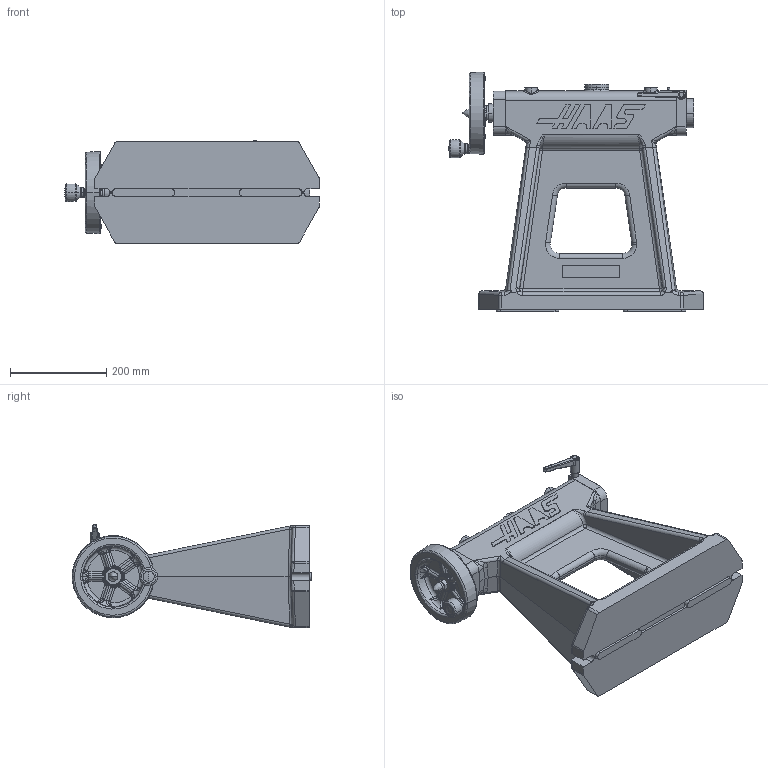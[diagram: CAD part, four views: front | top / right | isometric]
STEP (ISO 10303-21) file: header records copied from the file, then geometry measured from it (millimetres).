
FILE_DESCRIPTION (( 'STEP AP214' ), '1' );
FILE_NAME ('HTS16_STEP_2020-03.STEP', '2020-04-01T17:51:56', ( '' ), ( '' ), 'SwSTEP 2.0', 'SolidWorks 2019', '' );
FILE_SCHEMA (( 'AUTOMOTIVE_DESIGN' ));
Length unit declared in the file: inch
Products named in the file (1): HTS16_STEP_2020-03
Bounding box: 527.92 x 497.27 x 214.24 mm (x, y, z)
Volume: 11383250 mm3; surface area: 793283.8 mm2
Topology: 1 solids, 4 shells, 1237 faces, 3103 edges, 1878 vertices
Faces by surface type: plane 380, cylinder 342, bspline 236, torus 185, cone 60, sphere 34
Entity records: 61047 total; most frequent: CARTESIAN_POINT 23237, ORIENTED_EDGE 6142, DIRECTION 5690, EDGE_CURVE 3071, AXIS2_PLACEMENT_3D 2233, VERTEX_POINT 1878, EDGE_LOOP 1283, FACE_OUTER_BOUND 1237
